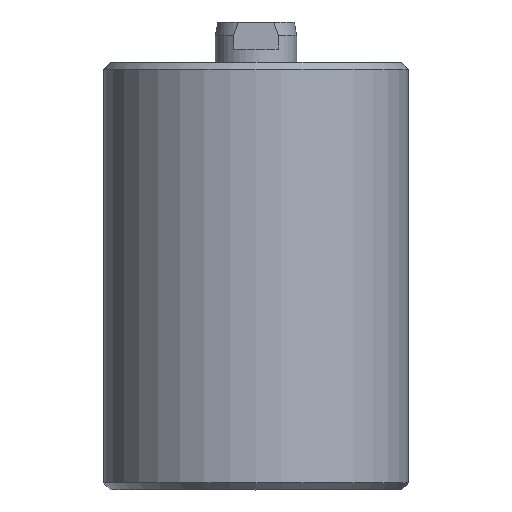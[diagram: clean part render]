
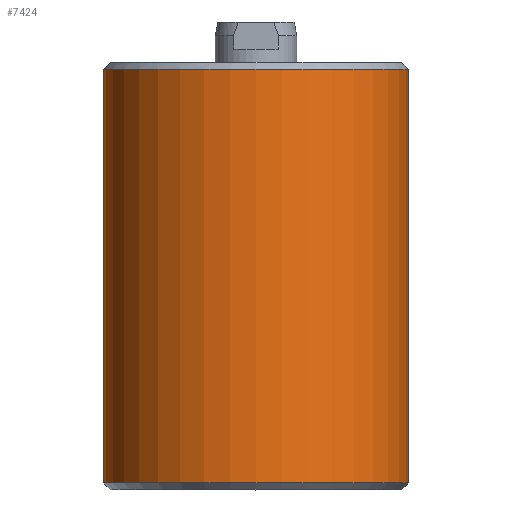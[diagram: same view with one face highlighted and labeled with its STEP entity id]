
A CAD part, top view. The second image highlights one B-rep face of the part: STEP entity #7424.
In plain terms, the highlighted cylindrical face has radius 22.5 mm (diameter 45 mm), a partial arc.
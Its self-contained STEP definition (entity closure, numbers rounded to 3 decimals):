
#5 = EDGE_CURVE ( 'NONE', #78, #2260, #92, .T. ) ;
#35 = CARTESIAN_POINT ( 'NONE',  ( 22.5, 103.056, 0. ) ) ;
#78 = VERTEX_POINT ( 'NONE', #13071 ) ;
#92 = LINE ( 'NONE', #35, #10511 ) ;
#221 = VECTOR ( 'NONE', #3438, 1000. ) ;
#1365 = DIRECTION ( 'NONE',  ( -1., 0., 0. ) ) ;
#1477 = EDGE_CURVE ( 'NONE', #10516, #78, #8452, .T. ) ;
#1922 = CARTESIAN_POINT ( 'NONE',  ( 22.5, 62., 0. ) ) ;
#2112 = AXIS2_PLACEMENT_3D ( 'NONE', #4019, #11073, #5053 ) ;
#2170 = ORIENTED_EDGE ( 'NONE', *, *, #2719, .F. ) ;
#2260 = VERTEX_POINT ( 'NONE', #1922 ) ;
#2442 = AXIS2_PLACEMENT_3D ( 'NONE', #9470, #3449, #10476 ) ;
#2496 = ORIENTED_EDGE ( 'NONE', *, *, #3052, .T. ) ;
#2526 = AXIS2_PLACEMENT_3D ( 'NONE', #8415, #6419, #1365 ) ;
#2659 = FACE_OUTER_BOUND ( 'NONE', #2890, .T. ) ;
#2719 = EDGE_CURVE ( 'NONE', #10516, #8556, #8274, .T. ) ;
#2890 = EDGE_LOOP ( 'NONE', ( #7317, #7124, #2496, #2170 ) ) ;
#3052 = EDGE_CURVE ( 'NONE', #2260, #8556, #8741, .T. ) ;
#3438 = DIRECTION ( 'NONE',  ( 0., 1., 0. ) ) ;
#3449 = DIRECTION ( 'NONE',  ( 0., -1., 0. ) ) ;
#4019 = CARTESIAN_POINT ( 'NONE',  ( 0., 1., 0. ) ) ;
#5053 = DIRECTION ( 'NONE',  ( -1., 0., 0. ) ) ;
#5462 = CARTESIAN_POINT ( 'NONE',  ( -22.5, 103.056, 0. ) ) ;
#6419 = DIRECTION ( 'NONE',  ( 0., 1., 0. ) ) ;
#7124 = ORIENTED_EDGE ( 'NONE', *, *, #5, .T. ) ;
#7127 = DIRECTION ( 'NONE',  ( 0., 1., 0. ) ) ;
#7317 = ORIENTED_EDGE ( 'NONE', *, *, #1477, .T. ) ;
#7424 = ADVANCED_FACE ( 'NONE', ( #2659 ), #7698, .T. ) ;
#7698 = CYLINDRICAL_SURFACE ( 'NONE', #2526, 22.5 ) ;
#8274 = LINE ( 'NONE', #5462, #221 ) ;
#8415 = CARTESIAN_POINT ( 'NONE',  ( 0., 103.056, 0. ) ) ;
#8452 = CIRCLE ( 'NONE', #2112, 22.5 ) ;
#8556 = VERTEX_POINT ( 'NONE', #12491 ) ;
#8741 = CIRCLE ( 'NONE', #2442, 22.5 ) ;
#9470 = CARTESIAN_POINT ( 'NONE',  ( 0., 62., 0. ) ) ;
#10476 = DIRECTION ( 'NONE',  ( 1., 0., 0. ) ) ;
#10511 = VECTOR ( 'NONE', #7127, 1000. ) ;
#10516 = VERTEX_POINT ( 'NONE', #12189 ) ;
#11073 = DIRECTION ( 'NONE',  ( 0., 1., 0. ) ) ;
#12189 = CARTESIAN_POINT ( 'NONE',  ( -22.5, 1., 0. ) ) ;
#12491 = CARTESIAN_POINT ( 'NONE',  ( -22.5, 62., 0. ) ) ;
#13071 = CARTESIAN_POINT ( 'NONE',  ( 22.5, 1., 0. ) ) ;
